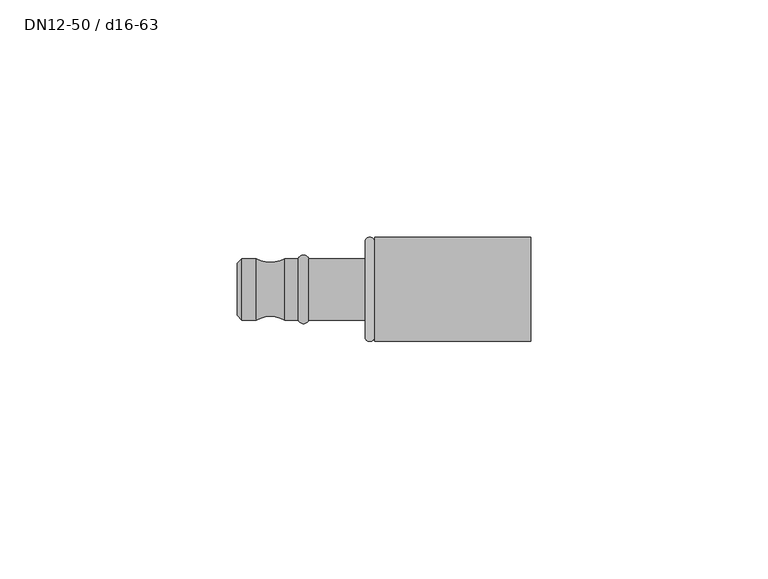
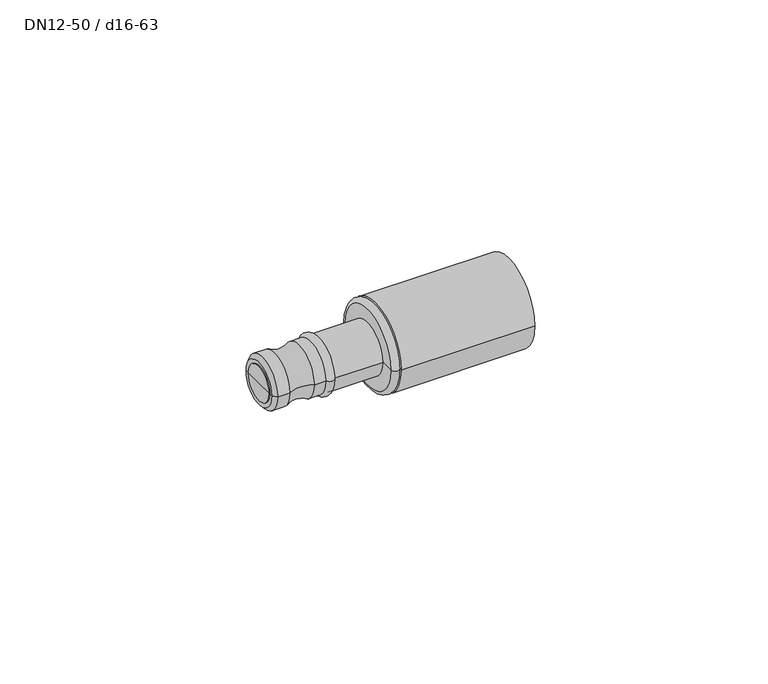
"""IFC4 building model written with IfcOpenShell, lengths in millimetres: pipe fitting geometry, NLRS_50_PIF_UN_Mepla overgang naar Geberit Mapress, met insteekeinde_geb : DN12-50 / d16-63."""

import ifcopenshell
import ifcopenshell.guid

model = None  # the IFC model being written
_history = None  # IfcOwnerHistory: only IFC2X3 demands one
_inside = {}  # id of a spatial element -> (the spatial element, [elements in it])
_under = {}  # id of a project, library or spatial element -> (it, [spatial elements below it])
_declared = {}  # id of a project -> (the project, [libraries it declares])
_typed = {}  # id of a type object -> (the type object, [elements of that type])
_made_of = {}  # id of a material, layer set ... -> (it, [elements and type objects made of it])


def new_model(schema):
    """Start an empty IFC model of exactly this schema.

    Asked for "IFC4X3", IfcOpenShell would pick the latest addendum, in which some entities
    have other attributes; the version numbers below select the first issue.
    IFC2X3 requires an IfcOwnerHistory on every rooted entity: one is made here for all.
    """
    global model, _history
    if schema == "IFC4X3":
        model = ifcopenshell.file(schema_version=(4, 3, 0, 0))
    else:
        model = ifcopenshell.file(schema=schema)
    _inside.clear()
    _under.clear()
    _declared.clear()
    _typed.clear()
    _made_of.clear()
    _history = None
    if model.schema == "IFC2X3":
        org = make("IfcOrganization", Name="unknown")
        user = make(
            "IfcPersonAndOrganization",
            ThePerson=make("IfcPerson", FamilyName="unknown"),
            TheOrganization=org,
        )
        app = make(
            "IfcApplication",
            ApplicationDeveloper=org,
            Version="unknown",
            ApplicationFullName="unknown",
            ApplicationIdentifier="unknown",
        )
        _history = make(
            "IfcOwnerHistory",
            OwningUser=user,
            OwningApplication=app,
            ChangeAction="ADDED",
            CreationDate=0,
        )
    return model


def make(cls, **values):
    """One entity of the class cls with the attributes given. An attribute that is None is left unset."""
    return model.create_entity(
        cls, **{name: value for name, value in values.items() if value is not None}
    )


def rooted(cls, **values):
    """An entity with a GlobalId (a new one), such as an element, a storey or a relation."""
    return make(cls, GlobalId=ifcopenshell.guid.new(), OwnerHistory=_history, **values)


def si_unit(unit_type, name, prefix=None):
    """IfcSIUnit, for example si_unit("LENGTHUNIT", "METRE", prefix="MILLI")."""
    return make("IfcSIUnit", UnitType=unit_type, Prefix=prefix, Name=name)


def assignment(units):
    """IfcUnitAssignment: the units of a project."""
    return None if units is None else make("IfcUnitAssignment", Units=units)


def point(xyz):
    """IfcCartesianPoint."""
    return None if xyz is None else make("IfcCartesianPoint", Coordinates=xyz)


def direction(xyz):
    """IfcDirection."""
    return None if xyz is None else make("IfcDirection", DirectionRatios=xyz)


def frame(location, z_axis=None, x_axis=None):
    """IfcAxis2Placement3D, a coordinate frame: its origin and axes. An axis left out is left unset."""
    return make(
        "IfcAxis2Placement3D",
        Location=point(location),
        Axis=direction(z_axis),
        RefDirection=direction(x_axis),
    )


def origin():
    """The frame at (0, 0, 0) with its axes left unset."""
    return frame((0.0, 0.0, 0.0))


def place(relative_to, where):
    """IfcLocalPlacement: puts the frame where relative to a parent placement (None: the world)."""
    return make(
        "IfcLocalPlacement", PlacementRelTo=relative_to, RelativePlacement=where
    )


def context(
    kind, dimensions, precision=None, world=None, true_north=None, identifier=None
):
    """IfcGeometricRepresentationContext, for example the 3D "Model" context."""
    return make(
        "IfcGeometricRepresentationContext",
        ContextIdentifier=identifier,
        ContextType=kind,
        CoordinateSpaceDimension=dimensions,
        Precision=precision,
        WorldCoordinateSystem=world,
        TrueNorth=true_north,
    )


def project(units=None, contexts=None):
    """IfcProject with its units and contexts."""
    return rooted(
        "IfcProject",
        Name="project",
        RepresentationContexts=contexts,
        UnitsInContext=assignment(units),
    )


def spatial(cls, under=None, at=None, **own):
    """A site, building, storey or space (cls), placed at a placement, below another one or the project."""
    s = rooted(cls, ObjectPlacement=at, **own)
    if under is not None:
        _under.setdefault(under.id(), (under, []))[1].append(s)
    return s


def polyline(points):
    """IfcPolyline through the points."""
    return make("IfcPolyline", Points=[point(p) for p in points])


def circle_curve(where, radius):
    """IfcCircle in the frame where."""
    return make("IfcCircle", Position=where, Radius=radius)


def ellipse_curve(where, semi_axis1, semi_axis2):
    """IfcEllipse in the frame where."""
    return make(
        "IfcEllipse", Position=where, SemiAxis1=semi_axis1, SemiAxis2=semi_axis2
    )


def trimmed(basis, trim1, trim2, sense, master):
    """IfcTrimmedCurve: the piece of a basis curve between two trims."""
    return make(
        "IfcTrimmedCurve",
        BasisCurve=basis,
        Trim1=trim1,
        Trim2=trim2,
        SenseAgreement=sense,
        MasterRepresentation=master,
    )


def shape(context_of_items, identifier, shape_type, items):
    """IfcShapeRepresentation: the items that make up one representation, for example the "Body"."""
    return make(
        "IfcShapeRepresentation",
        ContextOfItems=context_of_items,
        RepresentationIdentifier=identifier,
        RepresentationType=shape_type,
        Items=items,
    )


def source(mapping_origin, context_of_items, identifier, shape_type, items):
    """IfcRepresentationMap: a shape defined once, which mapped items show again and again."""
    return make(
        "IfcRepresentationMap",
        MappingOrigin=mapping_origin,
        MappedRepresentation=shape(context_of_items, identifier, shape_type, items),
    )


def transform(
    local_origin,
    x_axis=None,
    y_axis=None,
    z_axis=None,
    scale=None,
    scale2=None,
    scale3=None,
    uniform=True,
):
    """IfcCartesianTransformationOperator3D, or its non-uniform kind. x_axis, y_axis, z_axis: its Axis1, 2, 3."""
    if uniform:
        return make(
            "IfcCartesianTransformationOperator3D",
            Axis1=direction(x_axis),
            Axis2=direction(y_axis),
            LocalOrigin=point(local_origin),
            Scale=scale,
            Axis3=direction(z_axis),
        )
    return make(
        "IfcCartesianTransformationOperator3DnonUniform",
        Axis1=direction(x_axis),
        Axis2=direction(y_axis),
        LocalOrigin=point(local_origin),
        Scale=scale,
        Axis3=direction(z_axis),
        Scale2=scale2,
        Scale3=scale3,
    )


def mapped(mapping_source, mapping_target):
    """IfcMappedItem: shows the shape of a source again, moved by a transform."""
    return make(
        "IfcMappedItem", MappingSource=mapping_source, MappingTarget=mapping_target
    )


def made_of(thing, what):
    """Note that an element or type object is made of a material, layer set ...; save() writes the relation."""
    if what is not None:
        _made_of.setdefault(what.id(), (what, []))[1].append(thing)
    return thing


def element(
    cls,
    number,
    at=None,
    inside=None,
    cuts=None,
    type_object=None,
    material=None,
    context=None,
    identifier="Body",
    shape_type=None,
    held_by="IfcProductDefinitionShape",
    body=None,
    shapes=None,
    **own,
):
    """One element of the class cls, such as IfcWall. Its Tag is "e" and its number.

    at: its placement. inside: the storey or other place that contains it. cuts: it is an
    opening in that element (IfcRelVoidsElement). A single representation is given by context,
    identifier, shape_type and body (its items); several are given by shapes. held_by: the class
    of the entity that holds the representations. save() writes the other relations.
    """
    e = rooted(cls, Tag="e%d" % number, ObjectPlacement=at, **own)
    if body is not None:
        shapes = [shape(context, identifier, shape_type, body)]
    if shapes is not None:
        e.Representation = make(held_by, Representations=shapes)
    if inside is not None:
        _inside.setdefault(inside.id(), (inside, []))[1].append(e)
    if cuts is not None:
        rooted(
            "IfcRelVoidsElement", RelatingBuildingElement=cuts, RelatedOpeningElement=e
        )
    if type_object is not None:
        _typed.setdefault(type_object.id(), (type_object, []))[1].append(e)
    return made_of(e, material)


def aggregate(whole, parts):
    """IfcRelAggregates: a whole, such as a stair, and the parts it consists of."""
    return rooted("IfcRelAggregates", RelatingObject=whole, RelatedObjects=parts)


def save(model, path):
    """Write the relations noted so far, then the file.

    IfcRelAggregates (storeys below a building ...), IfcRelContainedInSpatialStructure (elements
    in a storey), IfcRelDefinesByType, IfcRelAssociatesMaterial and IfcRelDeclares: one each for
    every whole, place, type object, material and project.
    """
    for whole, parts in _under.values():
        aggregate(whole, parts)
    for where, things in _inside.values():
        rooted(
            "IfcRelContainedInSpatialStructure",
            RelatedElements=things,
            RelatingStructure=where,
        )
    for kind, things in _typed.values():
        rooted("IfcRelDefinesByType", RelatedObjects=things, RelatingType=kind)
    for what, things in _made_of.values():
        rooted("IfcRelAssociatesMaterial", RelatedObjects=things, RelatingMaterial=what)
    for by, libraries in _declared.values():
        rooted("IfcRelDeclares", RelatingContext=by, RelatedDefinitions=libraries)
    model.write(path)


def plane_surface(at):
    """IfcPlane: the flat surface through the origin of the frame at, square to its z axis."""
    return make("IfcPlane", Position=at)


def cylinder_surface(at, radius):
    """IfcCylindricalSurface: all points at the distance radius from the z axis of the frame at."""
    return make("IfcCylindricalSurface", Position=at, Radius=radius)


def revolved_surface(curve, axis_point, axis_direction):
    """IfcSurfaceOfRevolution: the curve turned about the line through axis_point along axis_direction."""
    return make(
        "IfcSurfaceOfRevolution",
        SweptCurve=make("IfcArbitraryOpenProfileDef", ProfileType="CURVE", Curve=curve),
        AxisPosition=make("IfcAxis1Placement", Location=point(axis_point), Axis=direction(axis_direction)),
    )


def advanced_brep(points, edges, surfaces, faces):
    """IfcAdvancedBrep: a solid bounded by faces that lie on surfaces and meet in shared edges.

    An edge is (start, end): straight between two places in points (the first is 0);
    or (start, end, curve); or (start, end, curve, False) where it runs against its curve.
    A face is (place in surfaces, loops), or (place, loops, False) where it looks against
    its surface's normal. A loop lists edges by number (the first is 1), with a minus sign
    where the edge is run from its end to its start. The first loop is the outer one.
    """
    corners = [point(p) for p in points]
    vertices = [make("IfcVertexPoint", VertexGeometry=c) for c in corners]
    made = []
    for start, end, *more in edges:
        made.append(
            make(
                "IfcEdgeCurve",
                EdgeStart=vertices[start],
                EdgeEnd=vertices[end],
                EdgeGeometry=more[0] if more else make("IfcPolyline", Points=[corners[start], corners[end]]),
                SameSense=more[1] if len(more) > 1 else True,
            )
        )
    hull = []
    for where, loops, *sense in faces:
        bounds = []
        for j, loop in enumerate(loops):
            ring = [make("IfcOrientedEdge", EdgeElement=made[abs(k) - 1], Orientation=k > 0) for k in loop]
            bounds.append(
                make(
                    "IfcFaceOuterBound" if j == 0 else "IfcFaceBound",
                    Bound=make("IfcEdgeLoop", EdgeList=ring),
                    Orientation=True,
                )
            )
        hull.append(make("IfcAdvancedFace", Bounds=bounds, FaceSurface=surfaces[where], SameSense=sense[0] if sense else True))
    return make("IfcAdvancedBrep", Outer=make("IfcClosedShell", CfsFaces=hull))


def dn12_50_d16_63_917c8bb9(model_context):
    return source(origin(), model_context, "Body", "AdvancedBrep", [
        advanced_brep(
        [(31.5, -10.9736188, 0.0), (31.5, 11.0263812, 0.0), (31.5, 0.0263812, 0.0), (-1.5, -10.9736188, 0.0), (-1.5, 11.0263812, 0.0), (-1.5, -4.4472376, 0.0), (-1.5, 4.5, 0.0), (-30.5, -4.4472376, 0.0), (-30.5, 4.5, 0.0), (-30.5, 0.0263812, 0.0)],
        [
            (0, 1, circle_curve(frame((31.5, 0.0263812, 0.0), z_axis=(1.0, 0.0, 0.0), x_axis=(0.0, 1.0000000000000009, 0.0)), 11.0)),
            (1, 2),
            (2, 0),
            (1, 0, circle_curve(frame((31.5, 0.0263812, 0.0), z_axis=(1.0, 0.0, 0.0), x_axis=(0.0, 1.0000000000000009, 0.0)), 11.0)),
            (3, 4, circle_curve(frame((-1.5, 0.0263812, 0.0), z_axis=(1.0, 0.0, 0.0), x_axis=(0.0, 1.0000000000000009, 0.0)), 11.0)),
            (4, 1),
            (0, 3),
            (4, 3, circle_curve(frame((-1.5, 0.0263812, 0.0), z_axis=(1.0, 0.0, 0.0), x_axis=(0.0, 1.0000000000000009, 0.0)), 11.0)),
            (5, 6, circle_curve(frame((-1.5, 0.0263812, 0.0), z_axis=(1.0, 0.0, 0.0), x_axis=(0.0, 1.0000000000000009, 0.0)), 4.4736188)),
            (6, 4),
            (3, 5),
            (6, 5, circle_curve(frame((-1.5, 0.0263812, 0.0), z_axis=(1.0, 0.0, 0.0), x_axis=(0.0, 1.0000000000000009, 0.0)), 4.4736188)),
            (7, 8, circle_curve(frame((-30.5, 0.0263812, 0.0), z_axis=(1.0, 0.0, 0.0), x_axis=(0.0, 1.0000000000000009, 0.0)), 4.4736188)),
            (8, 6),
            (5, 7),
            (8, 7, circle_curve(frame((-30.5, 0.0263812, 0.0), z_axis=(1.0, 0.0, 0.0), x_axis=(0.0, 1.0000000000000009, 0.0)), 4.4736188)),
            (9, 8),
            (7, 9),
        ],
        [
            plane_surface(frame((31.5, 0.0263812, 0.0), z_axis=(1.0, 0.0, 0.0), x_axis=(0.0, 1.0, 0.0))),
            cylinder_surface(frame((-33.4422681, 0.0263812, 0.0), z_axis=(-1.0000000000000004, 0.0, 0.0), x_axis=(0.0, 1.0000000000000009, 0.0)), 11.0),
            plane_surface(frame((-1.5, 0.0263812, 0.0), z_axis=(-1.0, 0.0, 0.0), x_axis=(0.0, 1.0, 0.0))),
            cylinder_surface(frame((-33.4422681, 0.0263812, 0.0), z_axis=(-1.0000000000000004, 0.0, 0.0), x_axis=(0.0, 1.0000000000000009, 0.0)), 4.4736188),
            plane_surface(frame((-30.5, 0.0263812, 0.0), z_axis=(-1.0, 0.0, 0.0), x_axis=(0.0, 1.0, 0.0))),
        ],
        [
            (0, [[1, 2, 3]]),
            (0, [[4, -3, -2]]),
            (1, [[5, 6, -1, 7]]),
            (1, [[8, -7, -4, -6]]),
            (2, [[9, 10, -5, 11]]),
            (2, [[12, -11, -8, -10]]),
            (3, [[13, 14, -9, 15]]),
            (3, [[16, -15, -12, -14]]),
            (4, [[17, -13, 18]]),
            (4, [[-18, -16, -17]]),
        ],
    ),
        advanced_brep(
        [(-30.5, 0.0, 0.0), (-30.5, 5.5, 0.0), (-30.5, -5.5, 0.0), (-1.5, -10.0, 0.0), (-1.5, 10.0, 0.0), (-1.5, 0.0, 0.0), (-3.5, -10.0, 0.0), (-3.5, 10.0, 0.0), (-3.5, -6.5, 0.0), (-3.5, 6.5, 0.0), (-15.381966, -6.5, 0.0), (-15.381966, 6.5, 0.0), (-17.618034, -6.5, 0.0), (-17.618034, 6.5, 0.0), (-20.4414451, -6.5, 0.0), (-20.4414451, 6.5, 0.0), (-26.4892433, -6.5, 0.0), (-26.4892433, 6.5, 0.0), (-29.5, -6.5, 0.0), (-29.5, 6.5, 0.0)],
        [
            (0, 1),
            (1, 2, circle_curve(frame((-30.5, 0.0, 0.0), z_axis=(-1.0, 0.0, 0.0), x_axis=(0.0, 1.0, 0.0)), 5.5)),
            (2, 0),
            (2, 1, circle_curve(frame((-30.5, 0.0, 0.0), z_axis=(-1.0, 0.0, 0.0), x_axis=(0.0, 1.0, 0.0)), 5.5)),
            (3, 4, circle_curve(frame((-1.5, 0.0, 0.0), z_axis=(1.0, 0.0, 0.0), x_axis=(0.0, 1.0, 0.0)), 10.0)),
            (4, 5),
            (5, 3),
            (4, 3, circle_curve(frame((-1.5, 0.0, 0.0), z_axis=(1.0, 0.0, 0.0), x_axis=(0.0, 1.0, 0.0)), 10.0)),
            (6, 7, circle_curve(frame((-3.5, 0.0, 0.0), z_axis=(1.0, 0.0, 0.0), x_axis=(0.0, 1.0, 0.0)), 10.0)),
            (7, 4, circle_curve(frame((-2.5, 10.0, 0.0), z_axis=(0.0, 0.0, -1.0), x_axis=(1.0, 0.0, 0.0)), 1.0)),
            (3, 6, circle_curve(frame((-2.5, -10.0, 0.0), z_axis=(0.0, 0.0, -1.0), x_axis=(1.0, 0.0, 0.0)), 1.0)),
            (7, 6, circle_curve(frame((-3.5, 0.0, 0.0), z_axis=(1.0, 0.0, 0.0), x_axis=(0.0, 1.0, 0.0)), 10.0)),
            (8, 9, circle_curve(frame((-3.5, 0.0, 0.0), z_axis=(1.0, 0.0, 0.0), x_axis=(0.0, 1.0, 0.0)), 6.5)),
            (9, 7),
            (6, 8),
            (9, 8, circle_curve(frame((-3.5, 0.0, 0.0), z_axis=(1.0, 0.0, 0.0), x_axis=(0.0, 1.0, 0.0)), 6.5)),
            (10, 11, circle_curve(frame((-15.381966, 0.0, 0.0), z_axis=(1.0, 0.0, 0.0), x_axis=(0.0, 1.0, 0.0)), 6.5)),
            (11, 9),
            (8, 10),
            (11, 10, circle_curve(frame((-15.381966, 0.0, 0.0), z_axis=(1.0, 0.0, 0.0), x_axis=(0.0, 1.0, 0.0)), 6.5)),
            (12, 13, circle_curve(frame((-17.618034, 0.0, 0.0), z_axis=(1.0, 0.0, 0.0), x_axis=(0.0, 1.0, 0.0)), 6.5)),
            (13, 11, circle_curve(frame((-16.5, 5.9889209, 0.0), z_axis=(0.0, 0.0, -1.0), x_axis=(1.0, 0.0, 0.0)), 1.2293095)),
            (10, 12, circle_curve(frame((-16.5, -5.9889209, 0.0), z_axis=(0.0, 0.0, -1.0), x_axis=(1.0, 0.0, 0.0)), 1.2293095)),
            (13, 12, circle_curve(frame((-17.618034, 0.0, 0.0), z_axis=(1.0, 0.0, 0.0), x_axis=(0.0, 1.0, 0.0)), 6.5)),
            (14, 15, circle_curve(frame((-20.4414451, 0.0, 0.0), z_axis=(1.0, 0.0, 0.0), x_axis=(0.0, 1.0, 0.0)), 6.5)),
            (15, 13),
            (12, 14),
            (15, 14, circle_curve(frame((-20.4414451, 0.0, 0.0), z_axis=(1.0, 0.0, 0.0), x_axis=(0.0, 1.0, 0.0)), 6.5)),
            (16, 17, circle_curve(frame((-26.4892433, 0.0, 0.0), z_axis=(1.0, 0.0, 0.0), x_axis=(0.0, 1.0, 0.0)), 6.5)),
            (17, 15, circle_curve(frame((-23.4653442, 11.7319636, 0.0), z_axis=(0.0, 0.0, 1.0), x_axis=(1.0, 0.0, 0.0)), 6.0429636)),
            (14, 16, circle_curve(frame((-23.4653442, -11.7319636, 0.0), z_axis=(0.0, 0.0, 1.0), x_axis=(1.0, 0.0, 0.0)), 6.0429636)),
            (17, 16, circle_curve(frame((-26.4892433, 0.0, 0.0), z_axis=(1.0, 0.0, 0.0), x_axis=(0.0, 1.0, 0.0)), 6.5)),
            (18, 19, circle_curve(frame((-29.5, 0.0, 0.0), z_axis=(1.0, 0.0, 0.0), x_axis=(0.0, 1.0, 0.0)), 6.5)),
            (19, 17),
            (16, 18),
            (19, 18, circle_curve(frame((-29.5, 0.0, 0.0), z_axis=(1.0, 0.0, 0.0), x_axis=(0.0, 1.0, 0.0)), 6.5)),
            (1, 19),
            (18, 2),
        ],
        [
            plane_surface(frame((-30.5, 0.0, 0.0), z_axis=(-1.0, 0.0, 0.0), x_axis=(0.0, 1.0, 0.0))),
            plane_surface(frame((-1.5, 0.0, 0.0), z_axis=(1.0, 0.0, 0.0), x_axis=(0.0, 1.0, 0.0))),
            revolved_surface(trimmed(ellipse_curve(frame((-2.5, 10.0, 0.0), z_axis=(0.0, 0.0, 1.0), x_axis=(1.0, 0.0, 0.0)), 1.0, 1.0), [point((-1.5, 10.0, 0.0))], [point((-3.5, 10.0, 0.0))], True, "CARTESIAN"), (-38.545876, 0.0, 0.0), (-1.0, 0.0, 0.0)),
            plane_surface(frame((-3.5, 0.0, 0.0), z_axis=(-1.0, 0.0, 0.0), x_axis=(0.0, 1.0, 0.0))),
            cylinder_surface(frame((-38.545876, 0.0, 0.0), z_axis=(-1.0, 0.0, 0.0), x_axis=(0.0, 1.0, 0.0)), 6.5),
            revolved_surface(trimmed(ellipse_curve(frame((-16.5, 5.9889209, 0.0), z_axis=(0.0, 0.0, 1.0), x_axis=(1.0, 0.0, 0.0)), 1.2293095, 1.2293095), [point((-15.381966, 6.5, 0.0))], [point((-17.618034, 6.5, 0.0))], True, "CARTESIAN"), (-38.545876, 0.0, 0.0), (-1.0, 0.0, 0.0)),
            revolved_surface(trimmed(ellipse_curve(frame((-23.4653442, 11.7319636, 0.0), z_axis=(0.0, 0.0, -1.0), x_axis=(1.0, 0.0, 0.0)), 6.0429636, 6.0429636), [point((-20.4414451, 6.5, 0.0))], [point((-26.4892433, 6.5, 0.0))], True, "CARTESIAN"), (-38.545876, 0.0, 0.0), (-1.0, 0.0, 0.0)),
            revolved_surface(polyline([(-29.5, 6.5, 0.0), (-30.5, 5.5, 0.0)]), (-38.545876, 0.0, 0.0), (-1.0, 0.0, 0.0)),
        ],
        [
            (0, [[1, 2, 3]]),
            (0, [[-3, 4, -1]]),
            (1, [[5, 6, 7]]),
            (1, [[8, -7, -6]]),
            (2, [[9, 10, -5, 11]]),
            (2, [[12, -11, -8, -10]]),
            (3, [[13, 14, -9, 15]]),
            (3, [[16, -15, -12, -14]]),
            (4, [[17, 18, -13, 19]]),
            (4, [[20, -19, -16, -18]]),
            (5, [[21, 22, -17, 23]]),
            (5, [[24, -23, -20, -22]]),
            (4, [[25, 26, -21, 27]]),
            (4, [[28, -27, -24, -26]]),
            (6, [[29, 30, -25, 31]]),
            (6, [[32, -31, -28, -30]]),
            (4, [[33, 34, -29, 35]]),
            (4, [[36, -35, -32, -34]]),
            (7, [[-2, 37, -33, 38]]),
            (7, [[-4, -38, -36, -37]]),
        ],
    ),
    ])


if __name__ == "__main__":
    model = new_model("IFC4")
    model_context = context("Model", 3, world=origin())
    ifc_project = project(units=[si_unit("LENGTHUNIT", "METRE", prefix="MILLI")], contexts=[model_context])
    site = spatial("IfcSite", under=ifc_project)
    building = spatial("IfcBuilding", under=site)
    placement = place(None, origin())
    dn12_50_d16_63_shape = dn12_50_d16_63_917c8bb9(model_context)
    element("IfcPipeFitting", 1, ObjectType="NLRS_50_PIF_UN_Mepla overgang naar Geberit Mapress, met insteekeinde_geb : DN12-50 / d16-63", at=placement, inside=building, context=model_context, shape_type="MappedRepresentation", body=[
        mapped(dn12_50_d16_63_shape, transform((0.0, 0.0, 0.0), x_axis=(1.0, 0.0, 0.0), y_axis=(0.0, 1.0, 0.0), z_axis=(0.0, 0.0, 1.0))),
    ])
    save(model, "model.ifc")
